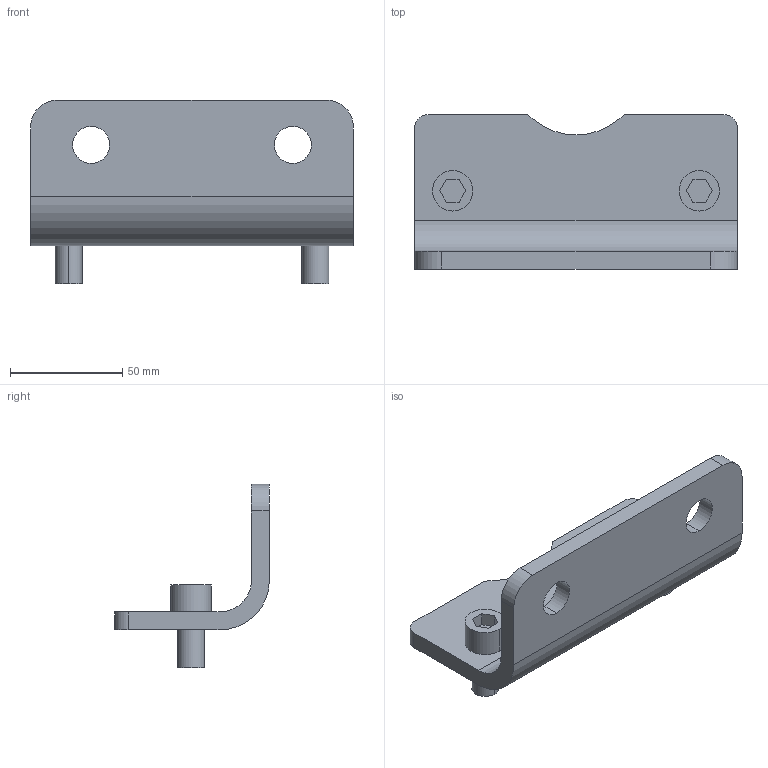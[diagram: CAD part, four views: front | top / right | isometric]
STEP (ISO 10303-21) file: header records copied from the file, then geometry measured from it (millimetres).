
FILE_DESCRIPTION((''),'2;1');
FILE_NAME('1827001310','2015-06-24T',('vol1hc'),(''),'PRO/ENGINEER BY PARAMETRIC TECHNOLOGY CORPORATION, 2012421','PRO/ENGINEER BY PARAMETRIC TECHNOLOGY CORPORATION, 2012421','');
FILE_SCHEMA(('CONFIG_CONTROL_DESIGN','SHAPE_APPEARANCE_LAYERS_GROUPS'));
Length unit declared in the file: millimetre
Products named in the file (1): 1827001310
Bounding box: 144 x 69 x 82 mm (x, y, z)
Volume: 138998.5 mm3; surface area: 40517.1 mm2
Topology: 1 solids, 1 shells, 46 faces, 114 edges, 76 vertices
Faces by surface type: plane 27, cylinder 19
Entity records: 1436 total; most frequent: DIRECTION 244, CARTESIAN_POINT 236, ORIENTED_EDGE 228, EDGE_CURVE 114, AXIS2_PLACEMENT_3D 84, VECTOR 76, LINE 76, VERTEX_POINT 76
